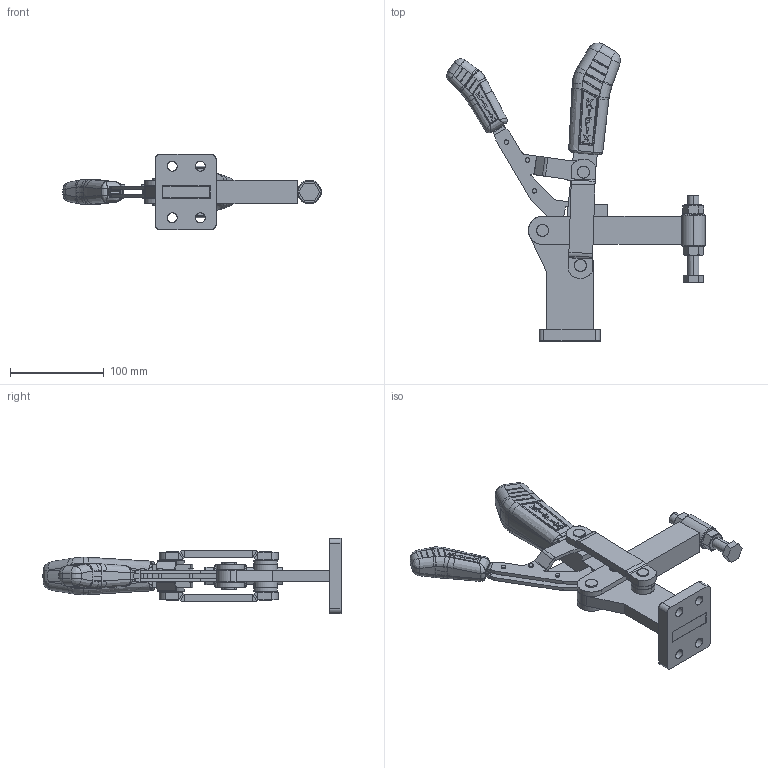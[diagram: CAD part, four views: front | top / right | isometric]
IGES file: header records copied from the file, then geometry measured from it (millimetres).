
Start section: SolidWorks IGES file using analytic representation for surfaces
Global section: file name: C:\Projetos\Grampos\KF-066\KF-066 TSTR\KF-066 TSTR.IGS; native system: SolidWorks 2013; preprocessor: SolidWorks 2013; author: Ricardo; date: 140919.142129; units: millimetre
Bounding box: 275.48 x 317.74 x 80 mm (x, y, z)
Surface area: 178415 mm2 (no closed solid volume)
Topology: 0 solids, 0 shells, 1355 faces, 15070 edges, 15057 vertices
Faces by surface type: bspline 873, revolution 482
